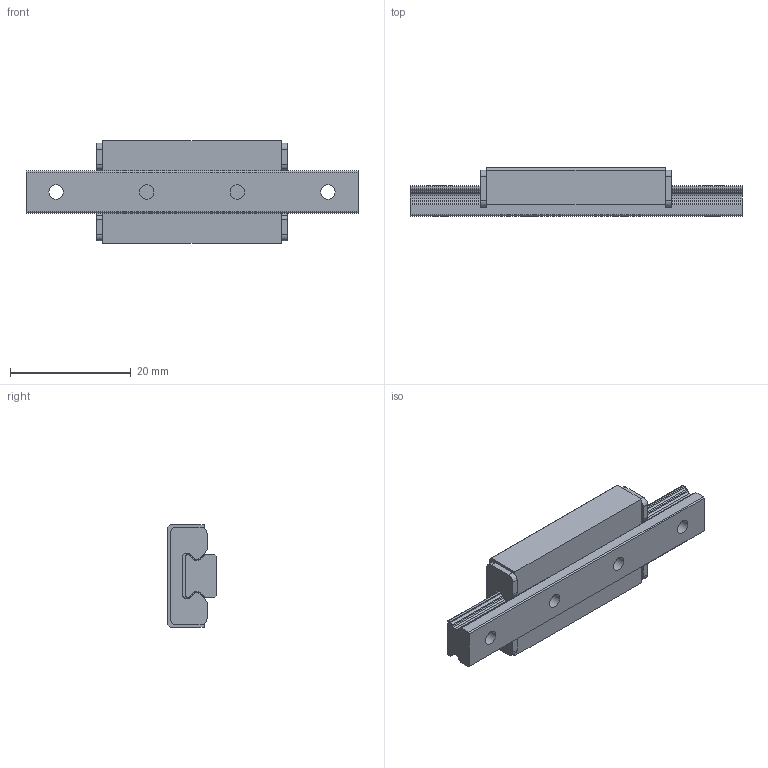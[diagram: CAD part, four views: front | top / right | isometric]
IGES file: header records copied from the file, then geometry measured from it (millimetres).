
Start section: Data from Parasolid IGES Translator 26.0.171, Copyright(c) 2006 Siemens PLM Software. All Rights Reserved.
Global section: file name: EPF7M16-55LM_G5_0_11-7_1.igs; native system: By Siemens PLM Incorporated; preprocessor: XPlus GENERIC/IGES 26.0.171; author: Noname; organization: Noname; date: 20240521.041238; units: millimetre
Bounding box: 55 x 8 x 17 mm (x, y, z)
Surface area: 3539.5 mm2 (no closed solid volume)
Topology: 0 solids, 0 shells, 157 faces, 872 edges, 854 vertices
Faces by surface type: revolution 87, extrusion 70
